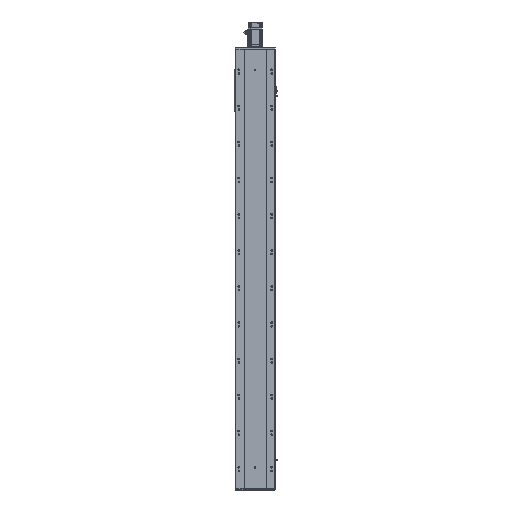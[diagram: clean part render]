
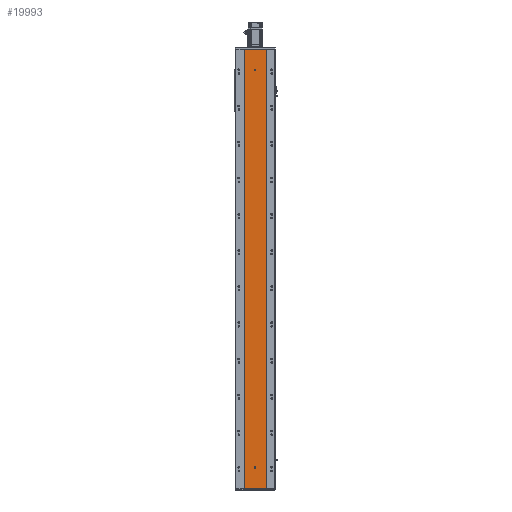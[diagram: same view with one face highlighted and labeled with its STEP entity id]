
A CAD part, front view. The second image highlights one B-rep face of the part: STEP entity #19993.
In plain terms, the highlighted planar face has unit normal (0, -1, 0).
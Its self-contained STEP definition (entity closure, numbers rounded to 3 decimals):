
#316 = CIRCLE ( 'NONE', #14754, 4. ) ;
#1601 = DIRECTION ( 'NONE',  ( 0., 0., -1. ) ) ;
#2429 = VERTEX_POINT ( 'NONE', #12795 ) ;
#2661 = CARTESIAN_POINT ( 'NONE',  ( 0., 0., 112.5 ) ) ;
#2714 = ORIENTED_EDGE ( 'NONE', *, *, #9176, .F. ) ;
#3068 = FACE_BOUND ( 'NONE', #15311, .T. ) ;
#4149 = AXIS2_PLACEMENT_3D ( 'NONE', #42506, #24663, #18439 ) ;
#4448 = DIRECTION ( 'NONE',  ( 0., -1., 0. ) ) ;
#5596 = CARTESIAN_POINT ( 'NONE',  ( -60., 0., 2432. ) ) ;
#6977 = CARTESIAN_POINT ( 'NONE',  ( 0., 0., 2318. ) ) ;
#7711 = LINE ( 'NONE', #16013, #78353 ) ;
#9000 = VECTOR ( 'NONE', #15821, 1000. ) ;
#9115 = PLANE ( 'NONE',  #53759 ) ;
#9176 = EDGE_CURVE ( 'NONE', #64648, #10391, #68601, .T. ) ;
#9360 = CARTESIAN_POINT ( 'NONE',  ( -60., 0., 0. ) ) ;
#10391 = VERTEX_POINT ( 'NONE', #26811 ) ;
#11351 = CARTESIAN_POINT ( 'NONE',  ( -60., 0., 2432. ) ) ;
#11555 = DIRECTION ( 'NONE',  ( 0., -1., 0. ) ) ;
#11872 = LINE ( 'NONE', #9360, #9000 ) ;
#12657 = ORIENTED_EDGE ( 'NONE', *, *, #21441, .F. ) ;
#12687 = VERTEX_POINT ( 'NONE', #34547 ) ;
#12795 = CARTESIAN_POINT ( 'NONE',  ( 60., 0., 0. ) ) ;
#13031 = EDGE_CURVE ( 'NONE', #32236, #13560, #76777, .T. ) ;
#13199 = EDGE_CURVE ( 'NONE', #52746, #2429, #11872, .T. ) ;
#13560 = VERTEX_POINT ( 'NONE', #59401 ) ;
#14562 = AXIS2_PLACEMENT_3D ( 'NONE', #6977, #50211, #55882 ) ;
#14754 = AXIS2_PLACEMENT_3D ( 'NONE', #47960, #4448, #53921 ) ;
#15311 = EDGE_LOOP ( 'NONE', ( #51433, #46759 ) ) ;
#15821 = DIRECTION ( 'NONE',  ( 1., 0., 0. ) ) ;
#16013 = CARTESIAN_POINT ( 'NONE',  ( 60., 0., 2432. ) ) ;
#18293 = LINE ( 'NONE', #5596, #73486 ) ;
#18439 = DIRECTION ( 'NONE',  ( 0., 0., -1. ) ) ;
#19993 = ADVANCED_FACE ( 'NONE', ( #3068, #72739, #23381 ), #9115, .F. ) ;
#20661 = CIRCLE ( 'NONE', #65881, 4. ) ;
#21296 = CARTESIAN_POINT ( 'NONE',  ( -60., 0., 2432. ) ) ;
#21441 = EDGE_CURVE ( 'NONE', #10391, #2429, #7711, .T. ) ;
#22975 = CARTESIAN_POINT ( 'NONE',  ( 4., 0., 119.5 ) ) ;
#23062 = CIRCLE ( 'NONE', #4149, 4. ) ;
#23381 = FACE_OUTER_BOUND ( 'NONE', #77838, .T. ) ;
#23743 = CARTESIAN_POINT ( 'NONE',  ( 0., 0., 116.5 ) ) ;
#24358 = VERTEX_POINT ( 'NONE', #22975 ) ;
#24663 = DIRECTION ( 'NONE',  ( 0., -1., 0. ) ) ;
#25309 = DIRECTION ( 'NONE',  ( 0., -1., 0. ) ) ;
#26753 = ORIENTED_EDGE ( 'NONE', *, *, #51622, .F. ) ;
#26811 = CARTESIAN_POINT ( 'NONE',  ( 60., 0., 2432. ) ) ;
#26978 = DIRECTION ( 'NONE',  ( 0., 1., 0. ) ) ;
#27497 = ORIENTED_EDGE ( 'NONE', *, *, #61076, .F. ) ;
#27768 = VECTOR ( 'NONE', #46062, 1000. ) ;
#29538 = VERTEX_POINT ( 'NONE', #46754 ) ;
#29637 = CARTESIAN_POINT ( 'NONE',  ( -4., 0., 116.5 ) ) ;
#30271 = ORIENTED_EDGE ( 'NONE', *, *, #13199, .T. ) ;
#30922 = ORIENTED_EDGE ( 'NONE', *, *, #64923, .T. ) ;
#31257 = EDGE_CURVE ( 'NONE', #24358, #12687, #23062, .T. ) ;
#31853 = CARTESIAN_POINT ( 'NONE',  ( -60., 0., 0. ) ) ;
#32236 = VERTEX_POINT ( 'NONE', #70284 ) ;
#32323 = VERTEX_POINT ( 'NONE', #2661 ) ;
#33726 = CARTESIAN_POINT ( 'NONE',  ( -60., 0., 2432. ) ) ;
#34547 = CARTESIAN_POINT ( 'NONE',  ( -4., 0., 119.5 ) ) ;
#37299 = AXIS2_PLACEMENT_3D ( 'NONE', #23743, #11555, #67003 ) ;
#42438 = DIRECTION ( 'NONE',  ( 1., 0., 0. ) ) ;
#42506 = CARTESIAN_POINT ( 'NONE',  ( 0., 0., 119.5 ) ) ;
#43143 = CARTESIAN_POINT ( 'NONE',  ( 0., 0., 116.5 ) ) ;
#44192 = DIRECTION ( 'NONE',  ( 0., 0., -1. ) ) ;
#46062 = DIRECTION ( 'NONE',  ( 0., 0., 1. ) ) ;
#46754 = CARTESIAN_POINT ( 'NONE',  ( 4., 0., 116.5 ) ) ;
#46759 = ORIENTED_EDGE ( 'NONE', *, *, #13031, .F. ) ;
#47960 = CARTESIAN_POINT ( 'NONE',  ( 0., 0., 2318. ) ) ;
#48073 = LINE ( 'NONE', #76931, #27768 ) ;
#48957 = CIRCLE ( 'NONE', #37299, 4. ) ;
#50211 = DIRECTION ( 'NONE',  ( 0., -1., 0. ) ) ;
#51433 = ORIENTED_EDGE ( 'NONE', *, *, #77629, .F. ) ;
#51622 = EDGE_CURVE ( 'NONE', #64820, #32323, #20661, .T. ) ;
#52746 = VERTEX_POINT ( 'NONE', #31853 ) ;
#53759 = AXIS2_PLACEMENT_3D ( 'NONE', #21296, #26978, #70536 ) ;
#53921 = DIRECTION ( 'NONE',  ( 0., 0., -1. ) ) ;
#54061 = VECTOR ( 'NONE', #42438, 1000. ) ;
#54174 = ORIENTED_EDGE ( 'NONE', *, *, #60503, .F. ) ;
#55882 = DIRECTION ( 'NONE',  ( 0., 0., -1. ) ) ;
#59401 = CARTESIAN_POINT ( 'NONE',  ( 0., 0., 2314. ) ) ;
#60503 = EDGE_CURVE ( 'NONE', #29538, #24358, #48073, .T. ) ;
#61076 = EDGE_CURVE ( 'NONE', #32323, #29538, #48957, .T. ) ;
#61266 = DIRECTION ( 'NONE',  ( 0., 0., -1. ) ) ;
#63790 = CARTESIAN_POINT ( 'NONE',  ( -4., 0., 116.5 ) ) ;
#64648 = VERTEX_POINT ( 'NONE', #33726 ) ;
#64820 = VERTEX_POINT ( 'NONE', #29637 ) ;
#64923 = EDGE_CURVE ( 'NONE', #64648, #52746, #18293, .T. ) ;
#65524 = DIRECTION ( 'NONE',  ( 0., 0., -1. ) ) ;
#65881 = AXIS2_PLACEMENT_3D ( 'NONE', #43143, #25309, #44192 ) ;
#67003 = DIRECTION ( 'NONE',  ( 0., 0., -1. ) ) ;
#68601 = LINE ( 'NONE', #11351, #54061 ) ;
#70284 = CARTESIAN_POINT ( 'NONE',  ( 0., 0., 2322. ) ) ;
#70536 = DIRECTION ( 'NONE',  ( 0., 0., 1. ) ) ;
#71177 = ORIENTED_EDGE ( 'NONE', *, *, #31257, .F. ) ;
#72739 = FACE_BOUND ( 'NONE', #77280, .T. ) ;
#72829 = LINE ( 'NONE', #63790, #76743 ) ;
#72866 = EDGE_CURVE ( 'NONE', #12687, #64820, #72829, .T. ) ;
#73486 = VECTOR ( 'NONE', #61266, 1000. ) ;
#76743 = VECTOR ( 'NONE', #1601, 1000. ) ;
#76777 = CIRCLE ( 'NONE', #14562, 4. ) ;
#76931 = CARTESIAN_POINT ( 'NONE',  ( 4., 0., 116.5 ) ) ;
#77280 = EDGE_LOOP ( 'NONE', ( #54174, #27497, #26753, #78076, #71177 ) ) ;
#77629 = EDGE_CURVE ( 'NONE', #13560, #32236, #316, .T. ) ;
#77838 = EDGE_LOOP ( 'NONE', ( #30271, #12657, #2714, #30922 ) ) ;
#78076 = ORIENTED_EDGE ( 'NONE', *, *, #72866, .F. ) ;
#78353 = VECTOR ( 'NONE', #65524, 1000. ) ;
